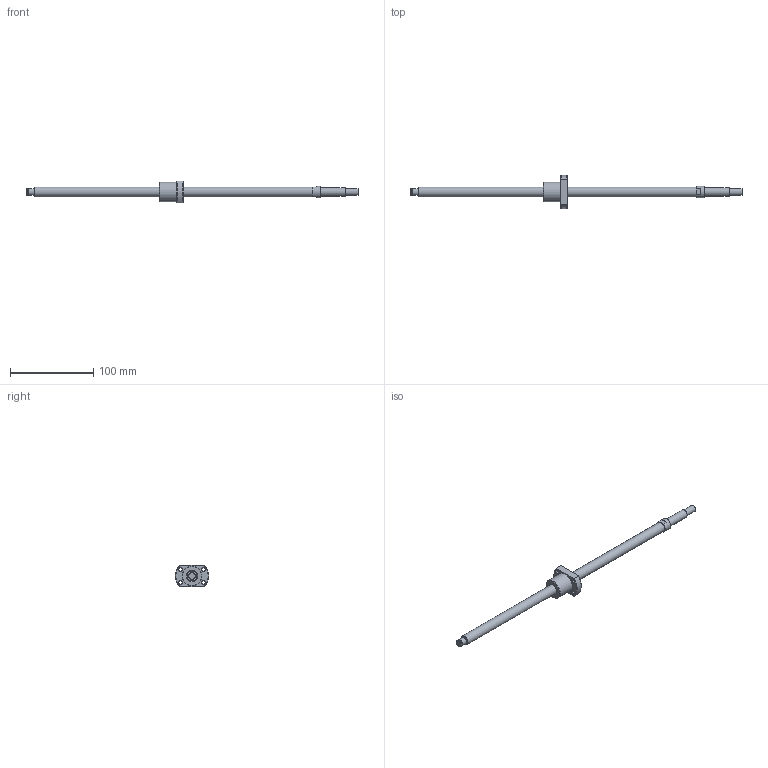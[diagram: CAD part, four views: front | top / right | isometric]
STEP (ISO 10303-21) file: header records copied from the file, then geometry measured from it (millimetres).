
FILE_DESCRIPTION(/* description */ ('STEP AP214'),/* implementation_level */ '2;1');
FILE_NAME(/* name */ 'NSGF1204Z-330R400C3-0-T-S-T-B-(150.5-S)',/* time_stamp */ '2026-08-24T20:19:02+02:00',/* author */ ('License CC BY-ND 4.0'),/* organization */ ('CADENAS'),/* preprocessor_version */ 'ST-DEVELOPER v20',/* originating_system */ 'PARTsolutions',/* authorisation */ ' ');
FILE_SCHEMA (('AUTOMOTIVE_DESIGN {1 0 10303 214 3 1 1}'));
Length unit declared in the file: millimetre
Products named in the file (3): NSGF1204Z-330R400C3-0-T-S-T-B-(150.5-S); NSG1204Z-330R40029_(T-S_T-B_2)-2; NSGF1204Z-1
Assembly tree (2 placements, depth 2):
  NSGF1204Z-330R400C3-0-T-S-T-B-(150.5-S)
    NSG1204Z-330R40029_(T-S_T-B_2)-2
    NSGF1204Z-1
Bounding box: 400 x 39.88 x 26 mm (x, y, z)
Volume: 54470.1 mm3; surface area: 20712.4 mm2
Topology: 2 solids, 2 shells, 45 faces, 96 edges, 62 vertices
Faces by surface type: plane 19, cylinder 16, cone 8, torus 2
Full cylindrical faces by diameter (mm): 4.5 x4, 7.6 x1, 8 x3, 10 x1, 12 x2, 14 x1, 21 x1, 24 x1
Entity records: 1195 total; most frequent: DIRECTION 206, CARTESIAN_POINT 202, ORIENTED_EDGE 144, AXIS2_PLACEMENT_3D 94, EDGE_LOOP 82, FACE_BOUND 82, EDGE_CURVE 72, VERTEX_POINT 58
